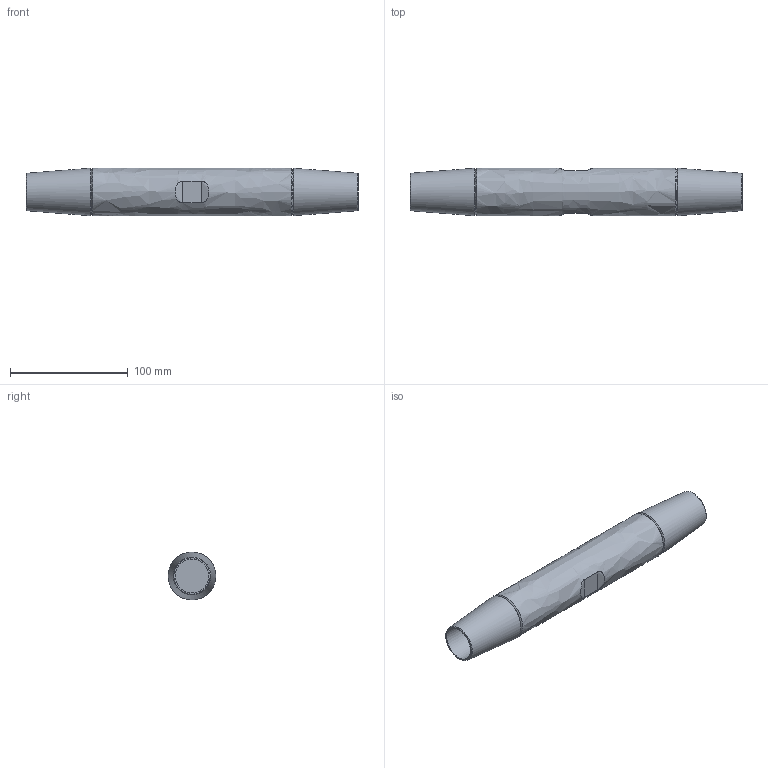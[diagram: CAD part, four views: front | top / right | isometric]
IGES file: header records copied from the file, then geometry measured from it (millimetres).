
Global section: file name: 520-027-MUF; native system: Autodesk Inventor 2016; preprocessor: unknown; author: Administrator; date: 20200630.131402; units: centimetre
Bounding box: 282 x 40.5 x 40.5 mm (x, y, z)
Volume: 279553.1 mm3; surface area: 43631.5 mm2
Topology: 1 solids, 1 shells, 21 faces, 53 edges, 37 vertices
Faces by surface type: bspline 21
